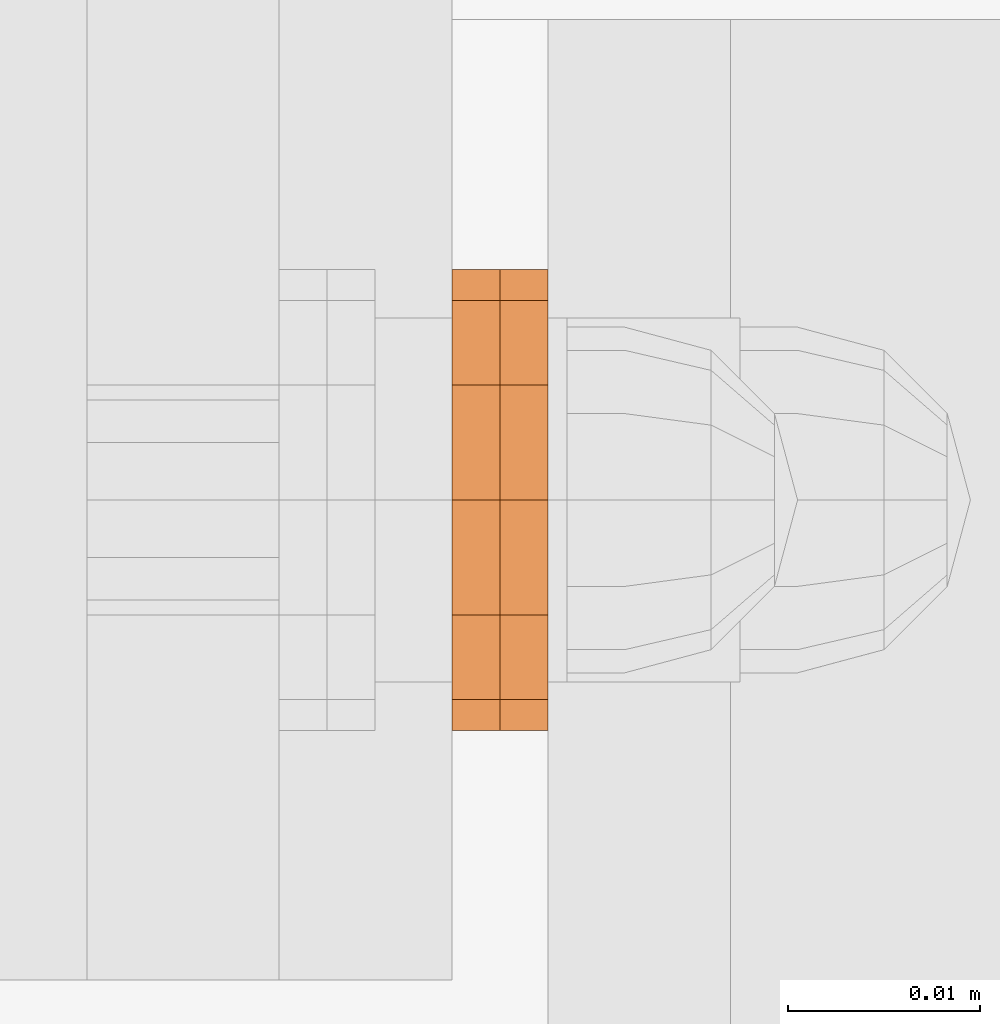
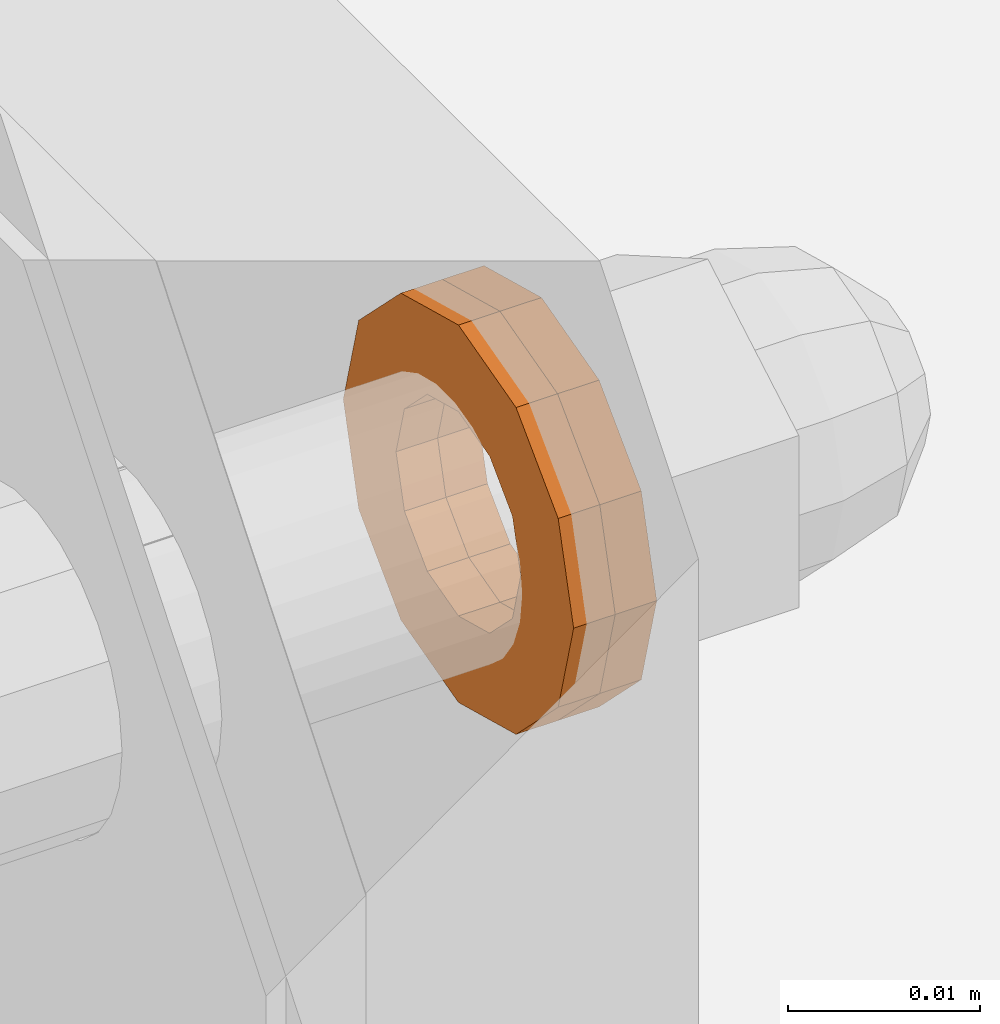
# One storey, part 112 of 162: 2 proxies.
"""IFC2X3 building model written with IfcOpenShell, lengths in millimetres."""

from ifc_helpers import new_model, entity, si_unit, converted_unit, origin_with_axes, place, context, project, spatial, faceted_brep, material, element, save


model = new_model("IFC2X3")

# Units and contexts
model_context = context("Model", 3, precision=1e-09, world=origin_with_axes())
ifc_project = project(units=[si_unit("LENGTHUNIT", "METRE", prefix="MILLI"), si_unit("AREAUNIT", "SQUARE_METRE"), si_unit("VOLUMEUNIT", "CUBIC_METRE"), converted_unit("PLANEANGLEUNIT", "DEGREE", entity("IfcPlaneAngleMeasure", 0.01745329), si_unit("PLANEANGLEUNIT", "RADIAN"), dimensions=[0, 0, 0, 0, 0, 0, 0])], contexts=[model_context])

# Site, building, storey
site_placement = place(None, origin_with_axes())
site = spatial("IfcSite", under=ifc_project, at=site_placement, Name="Hermannstra?e 1a, 60318 Frankfurt", CompositionType="ELEMENT")
building_placement = place(site_placement, origin_with_axes())
building = spatial("IfcBuilding", under=site, at=building_placement, Name="Struktur 1", CompositionType="ELEMENT")
storey_placement = place(building_placement, origin_with_axes())
storey = spatial("IfcBuildingStorey", under=building, at=storey_placement, Name="Default Storey", CompositionType="ELEMENT", Elevation=0.0)

# Proxies
ifc_material_1 = material(Name="A4")
proxy_1_placement = place(None, origin_with_axes())
element("IfcBuildingElementProxy", 1, at=proxy_1_placement, inside=storey, material=ifc_material_1, ObjectType="-", context=model_context, shape_type="Brep", body=[
    faceted_brep([(2553.310071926, 1670.217776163, 15355.999), (2550.810071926, 1670.217776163, 15355.999), (2550.810071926, 1674.610081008, 15351.606695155), (2553.310071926, 1674.610081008, 15351.606695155), (2553.310071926, 1680.610081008, 15349.999), (2553.310071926, 1686.610081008, 15351.606695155), (2553.310071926, 1691.002385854, 15355.999), (2553.310071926, 1692.610081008, 15361.999), (2553.310071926, 1691.002385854, 15367.999), (2553.310071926, 1686.610081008, 15372.391304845), (2553.310071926, 1680.610081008, 15373.999), (2553.310071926, 1674.610081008, 15372.391304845), (2553.310071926, 1670.217776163, 15367.999), (2553.310071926, 1668.610081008, 15361.999), (2553.310071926, 1683.860081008, 15356.369834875), (2553.310071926, 1680.610081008, 15355.499), (2553.310071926, 1677.360081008, 15356.369834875), (2553.310071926, 1674.980915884, 15358.749), (2553.310071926, 1674.110081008, 15361.999), (2553.310071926, 1674.980915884, 15365.249), (2553.310071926, 1677.360081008, 15367.628165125), (2553.310071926, 1680.610081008, 15368.499), (2553.310071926, 1683.860081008, 15367.628165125), (2553.310071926, 1686.239246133, 15365.249), (2553.310071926, 1687.110081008, 15361.999), (2553.310071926, 1686.239246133, 15358.749), (2550.810071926, 1668.610081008, 15361.999), (2550.810071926, 1670.217776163, 15367.999), (2550.810071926, 1674.610081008, 15372.391304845), (2550.810071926, 1680.610081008, 15373.999), (2550.810071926, 1686.610081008, 15372.391304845), (2550.810071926, 1691.002385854, 15367.999), (2550.810071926, 1692.610081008, 15361.999), (2550.810071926, 1691.002385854, 15355.999), (2550.810071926, 1686.610081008, 15351.606695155), (2550.810071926, 1680.610081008, 15349.999), (2550.810071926, 1674.110081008, 15361.999), (2550.810071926, 1674.980915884, 15358.749), (2550.810071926, 1677.360081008, 15356.369834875), (2550.810071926, 1680.610081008, 15355.499), (2550.810071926, 1683.860081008, 15356.369834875), (2550.810071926, 1686.239246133, 15358.749), (2550.810071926, 1687.110081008, 15361.999), (2550.810071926, 1686.239246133, 15365.249), (2550.810071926, 1683.860081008, 15367.628165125), (2550.810071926, 1680.610081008, 15368.499), (2550.810071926, 1677.360081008, 15367.628165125), (2550.810071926, 1674.980915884, 15365.249)], [[[0, 1, 2, 3]], [[3, 4, 5, 6, 7, 8, 9, 10, 11, 12, 13, 0], [14, 15, 16, 17, 18, 19, 20, 21, 22, 23, 24, 25]], [[1, 26, 27, 28, 29, 30, 31, 32, 33, 34, 35, 2], [36, 37, 38, 39, 40, 41, 42, 43, 44, 45, 46, 47]], [[37, 17, 16, 38]], [[1, 0, 13, 26]], [[17, 37, 36, 18]], [[38, 16, 15, 39]], [[3, 2, 35, 4]], [[26, 13, 12, 27]], [[18, 36, 47, 19]], [[39, 15, 14, 40]], [[4, 35, 34, 5]], [[27, 12, 11, 28]], [[19, 47, 46, 20]], [[40, 14, 25, 41]], [[5, 34, 33, 6]], [[24, 42, 41, 25]], [[28, 11, 10, 29]], [[20, 46, 45, 21]], [[23, 43, 42, 24]], [[6, 33, 32, 7]], [[44, 22, 21, 45]], [[43, 23, 22, 44]], [[29, 10, 9, 30]], [[7, 32, 31, 8]], [[30, 9, 8, 31]]]),
])
ifc_material_2 = material(Name="Kunststoff")
proxy_2_placement = place(None, origin_with_axes())
element("IfcBuildingElementProxy", 2, at=proxy_2_placement, inside=storey, material=ifc_material_2, ObjectType="-", context=model_context, shape_type="Brep", body=[
    faceted_brep([(2550.810071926, 1691.002385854, 15355.999), (2548.310071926, 1691.002385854, 15355.999), (2548.310071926, 1692.610081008, 15361.999), (2550.810071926, 1692.610081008, 15361.999), (2548.310071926, 1686.610081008, 15351.606695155), (2548.310071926, 1680.610081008, 15349.999), (2548.310071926, 1674.610081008, 15351.606695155), (2548.310071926, 1670.217776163, 15355.999), (2548.310071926, 1668.610081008, 15361.999), (2548.310071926, 1670.217776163, 15367.999), (2548.310071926, 1674.610081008, 15372.391304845), (2548.310071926, 1680.610081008, 15373.999), (2548.310071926, 1686.610081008, 15372.391304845), (2548.310071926, 1691.002385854, 15367.999), (2548.310071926, 1683.860081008, 15356.369834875), (2548.310071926, 1686.239246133, 15358.749), (2548.310071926, 1687.110081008, 15361.999), (2548.310071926, 1686.239246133, 15365.249), (2548.310071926, 1683.860081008, 15367.628165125), (2548.310071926, 1680.610081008, 15368.499), (2548.310071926, 1677.360081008, 15367.628165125), (2548.310071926, 1674.980915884, 15365.249), (2548.310071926, 1674.110081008, 15361.999), (2548.310071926, 1674.980915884, 15358.749), (2548.310071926, 1677.360081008, 15356.369834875), (2548.310071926, 1680.610081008, 15355.499), (2550.810071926, 1687.110081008, 15361.999), (2550.810071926, 1686.239246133, 15358.749), (2550.810071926, 1686.610081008, 15351.606695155), (2550.810071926, 1691.002385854, 15367.999), (2550.810071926, 1686.610081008, 15372.391304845), (2550.810071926, 1680.610081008, 15373.999), (2550.810071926, 1674.610081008, 15372.391304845), (2550.810071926, 1670.217776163, 15367.999), (2550.810071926, 1668.610081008, 15361.999), (2550.810071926, 1670.217776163, 15355.999), (2550.810071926, 1674.610081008, 15351.606695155), (2550.810071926, 1680.610081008, 15349.999), (2550.810071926, 1683.860081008, 15356.369834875), (2550.810071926, 1680.610081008, 15355.499), (2550.810071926, 1677.360081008, 15356.369834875), (2550.810071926, 1674.980915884, 15358.749), (2550.810071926, 1674.110081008, 15361.999), (2550.810071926, 1674.980915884, 15365.249), (2550.810071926, 1677.360081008, 15367.628165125), (2550.810071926, 1680.610081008, 15368.499), (2550.810071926, 1683.860081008, 15367.628165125), (2550.810071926, 1686.239246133, 15365.249)], [[[0, 1, 2, 3]], [[1, 4, 5, 6, 7, 8, 9, 10, 11, 12, 13, 2], [14, 15, 16, 17, 18, 19, 20, 21, 22, 23, 24, 25]], [[26, 16, 15, 27]], [[28, 0, 3, 29, 30, 31, 32, 33, 34, 35, 36, 37], [26, 27, 38, 39, 40, 41, 42, 43, 44, 45, 46, 47]], [[1, 0, 28, 4]], [[16, 26, 47, 17]], [[3, 2, 13, 29]], [[27, 15, 14, 38]], [[4, 28, 37, 5]], [[17, 47, 46, 18]], [[29, 13, 12, 30]], [[38, 14, 25, 39]], [[18, 46, 45, 19]], [[5, 37, 36, 6]], [[39, 25, 24, 40]], [[30, 12, 11, 31]], [[19, 45, 44, 20]], [[6, 36, 35, 7]], [[40, 24, 23, 41]], [[31, 11, 10, 32]], [[20, 44, 43, 21]], [[7, 35, 34, 8]], [[41, 23, 22, 42]], [[32, 10, 9, 33]], [[21, 43, 42, 22]], [[8, 34, 33, 9]]]),
])

save(model, "model.ifc")
